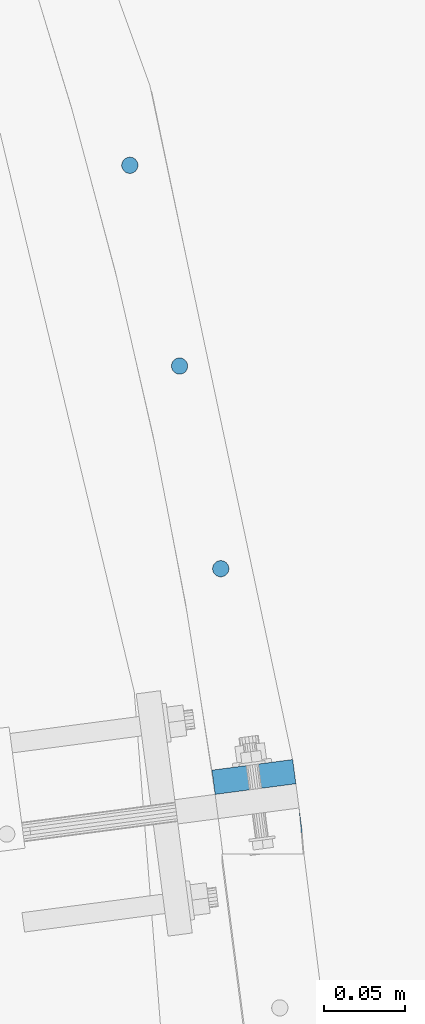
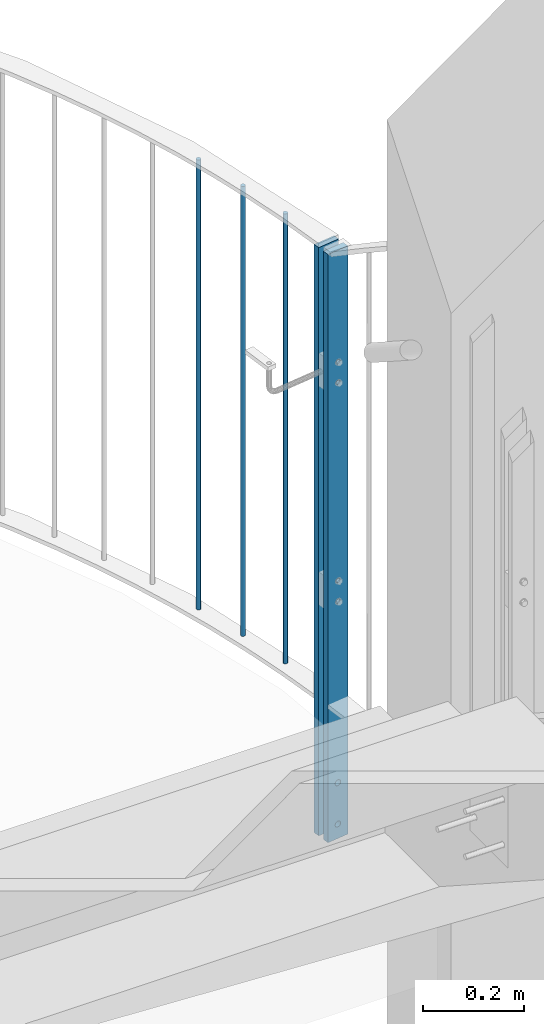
# One storey, part 88 of 296: 5 columns, 12 openings.
"""IFC2X3 building model written with IfcOpenShell, lengths in millimetres."""

from ifc_helpers import new_model, entity, si_unit, converted_unit, frame, frame_2d, origin, origin_with_axes, origin_2d, place, context, project, spatial, rectangle, circle, extrude, material, element, save


model = new_model("IFC2X3")

# Units and contexts
model_context = context("Model", 3, precision=1e-09, world=origin_with_axes())
ifc_project = project(units=[si_unit("LENGTHUNIT", "METRE", prefix="MILLI"), si_unit("AREAUNIT", "SQUARE_METRE"), si_unit("VOLUMEUNIT", "CUBIC_METRE"), converted_unit("PLANEANGLEUNIT", "DEGREE", entity("IfcPlaneAngleMeasure", 0.01745329), si_unit("PLANEANGLEUNIT", "RADIAN"), dimensions=[0, 0, 0, 0, 0, 0, 0])], contexts=[model_context])

# Site, building, storey
site_placement = place(None, origin_with_axes())
site = spatial("IfcSite", under=ifc_project, at=site_placement, Name="TZD-S?d | Treppenhausgel?nder", CompositionType="ELEMENT")
building_placement = place(site_placement, origin_with_axes())
building = spatial("IfcBuilding", under=site, at=building_placement, Name="Struktur 1", CompositionType="ELEMENT")
storey_placement = place(building_placement, origin_with_axes())
storey = spatial("IfcBuildingStorey", under=building, at=storey_placement, Name="Default Storey", CompositionType="ELEMENT", Elevation=0.0)

# Columns
ifc_material = material(Name="S235JR")
for number, where, z_axis, x_axis in (
    (1, (5867.115279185, 432.965487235, 11725.0), (0.0, 0.0, -1.0), (0.0, 1.0, 0.0)),
    (2, (5841.837700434, 557.381027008, 11725.0), (0.0, 0.0, -1.0), (0.0, 1.0, 0.0)),
    (3, (5811.30133172, 680.611350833, 11725.0), (0.0, 0.0, -1.0), (0.0, 1.0, 0.0)),
):
    element("IfcColumn", number, at=place(None, frame(where, z_axis=z_axis, x_axis=x_axis)), inside=storey, material=ifc_material, Name="-", ObjectType="-", context=model_context, shape_type="SweptSolid", body=[
        extrude(circle(Radius=5.0, at=origin_2d()), origin(), (0.0, 0.0, -1.0), 1090.0),
    ])

# Column, openings
column_1_placement = place(None, frame((5887.462242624, 305.144987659, 11390.001), z_axis=(0.0, 0.0, 1.0), x_axis=(0.130526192, -0.991444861, 0.0)))
column_1 = element("IfcColumn", 4, at=column_1_placement, inside=storey, material=ifc_material, Name="-", ObjectType="-", context=model_context, shape_type="SweptSolid", body=[
    extrude(rectangle(XDim=15.0, YDim=50.0, at=origin_2d()), origin(), (0.0, 0.0, 1.0), 1424.999),
])
opening_1_placement = place(column_1_placement, frame((-8.0, 5.001, 1154.999999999), z_axis=(-1.0, 0.0, 0.0), x_axis=(0.0, -1.0, 0.0)))
element("IfcOpeningElement", 5, at=opening_1_placement, cuts=column_1, ObjectType="Opening", context=model_context, shape_type="SweptSolid", body=[
    extrude(circle(Radius=5.001, at=frame_2d((5.001, 0.0), x_axis=(1.0, 0.0))), origin(), (0.0, 0.0, -1.0), 16.0),
])
opening_2_placement = place(column_1_placement, frame((-8.0, 5.001, 1104.999999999), z_axis=(-1.0, 0.0, 0.0), x_axis=(0.0, -1.0, 0.0)))
element("IfcOpeningElement", 6, at=opening_2_placement, cuts=column_1, ObjectType="Opening", context=model_context, shape_type="SweptSolid", body=[
    extrude(circle(Radius=5.001, at=frame_2d((5.001, 0.0), x_axis=(1.0, 0.0))), origin(), (0.0, 0.0, -1.0), 16.0),
])
opening_3_placement = place(column_1_placement, frame((-8.0, 7.001, 135.0), z_axis=(-1.0, 0.0, 0.0), x_axis=(0.0, -1.0, 0.0)))
element("IfcOpeningElement", 7, at=opening_3_placement, cuts=column_1, ObjectType="Opening", context=model_context, shape_type="SweptSolid", body=[
    extrude(circle(Radius=7.001, at=frame_2d((7.001, 0.0), x_axis=(1.0, 0.0))), origin(), (0.0, 0.0, -1.0), 16.0),
])
opening_4_placement = place(column_1_placement, frame((-8.0, 7.001, 35.0), z_axis=(-1.0, 0.0, 0.0), x_axis=(0.0, -1.0, 0.0)))
element("IfcOpeningElement", 8, at=opening_4_placement, cuts=column_1, ObjectType="Opening", context=model_context, shape_type="SweptSolid", body=[
    extrude(circle(Radius=7.001, at=frame_2d((7.001, 0.0), x_axis=(1.0, 0.0))), origin(), (0.0, 0.0, -1.0), 16.0),
])
opening_5_placement = place(column_1_placement, frame((-8.0, 5.001, 624.999999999), z_axis=(-1.0, 0.0, 0.0), x_axis=(0.0, -1.0, 0.0)))
element("IfcOpeningElement", 9, at=opening_5_placement, cuts=column_1, ObjectType="Opening", context=model_context, shape_type="SweptSolid", body=[
    extrude(circle(Radius=5.001, at=frame_2d((5.001, 0.0), x_axis=(1.0, 0.0))), origin(), (0.0, 0.0, -1.0), 16.0),
])
opening_6_placement = place(column_1_placement, frame((-8.0, 5.001, 574.999999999), z_axis=(-1.0, 0.0, 0.0), x_axis=(0.0, -1.0, 0.0)))
element("IfcOpeningElement", 10, at=opening_6_placement, cuts=column_1, ObjectType="Opening", context=model_context, shape_type="SweptSolid", body=[
    extrude(circle(Radius=5.001, at=frame_2d((5.001, 0.0), x_axis=(1.0, 0.0))), origin(), (0.0, 0.0, -1.0), 16.0),
])

column_2_placement = place(None, frame((5891.378028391, 275.401641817, 11390.001), z_axis=(0.0, 0.0, -1.0), x_axis=(-0.130526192, 0.991444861, 0.0)))
column_2 = element("IfcColumn", 11, at=column_2_placement, inside=storey, material=ifc_material, Name="-", ObjectType="-", context=model_context, shape_type="SweptSolid", body=[
    extrude(rectangle(XDim=15.0, YDim=50.0, at=origin_2d()), origin(), (0.0, 0.0, -1.0), 1424.999),
])
opening_7_placement = place(column_2_placement, frame((8.0, 7.001, -135.0), z_axis=(1.0, 0.0, 0.0), x_axis=(0.0, 1.0, 0.0)))
element("IfcOpeningElement", 12, at=opening_7_placement, cuts=column_2, ObjectType="Opening", context=model_context, shape_type="SweptSolid", body=[
    extrude(circle(Radius=7.001, at=frame_2d((-7.001, 0.0), x_axis=(1.0, 0.0))), origin(), (0.0, 0.0, -1.0), 16.0),
])
opening_8_placement = place(column_2_placement, frame((8.0, 7.001, -35.0), z_axis=(1.0, 0.0, 0.0), x_axis=(0.0, 1.0, 0.0)))
element("IfcOpeningElement", 13, at=opening_8_placement, cuts=column_2, ObjectType="Opening", context=model_context, shape_type="SweptSolid", body=[
    extrude(circle(Radius=7.001, at=frame_2d((-7.001, 0.0), x_axis=(1.0, 0.0))), origin(), (0.0, 0.0, -1.0), 16.0),
])
opening_9_placement = place(column_2_placement, frame((8.0, 5.001, -1154.999999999), z_axis=(1.0, 0.0, 0.0), x_axis=(0.0, 1.0, 0.0)))
element("IfcOpeningElement", 14, at=opening_9_placement, cuts=column_2, ObjectType="Opening", context=model_context, shape_type="SweptSolid", body=[
    extrude(circle(Radius=5.001, at=frame_2d((-5.001, 0.0), x_axis=(1.0, 0.0))), origin(), (0.0, 0.0, -1.0), 16.0),
])
opening_10_placement = place(column_2_placement, frame((8.0, 5.001, -1104.999999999), z_axis=(1.0, 0.0, 0.0), x_axis=(0.0, 1.0, 0.0)))
element("IfcOpeningElement", 15, at=opening_10_placement, cuts=column_2, ObjectType="Opening", context=model_context, shape_type="SweptSolid", body=[
    extrude(circle(Radius=5.001, at=frame_2d((-5.001, 0.0), x_axis=(1.0, 0.0))), origin(), (0.0, 0.0, -1.0), 16.0),
])
opening_11_placement = place(column_2_placement, frame((8.0, 5.001, -624.999999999), z_axis=(1.0, 0.0, 0.0), x_axis=(0.0, 1.0, 0.0)))
element("IfcOpeningElement", 16, at=opening_11_placement, cuts=column_2, ObjectType="Opening", context=model_context, shape_type="SweptSolid", body=[
    extrude(circle(Radius=5.001, at=frame_2d((-5.001, 0.0), x_axis=(1.0, 0.0))), origin(), (0.0, 0.0, -1.0), 16.0),
])
opening_12_placement = place(column_2_placement, frame((8.0, 5.001, -574.999999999), z_axis=(1.0, 0.0, 0.0), x_axis=(0.0, 1.0, 0.0)))
element("IfcOpeningElement", 17, at=opening_12_placement, cuts=column_2, ObjectType="Opening", context=model_context, shape_type="SweptSolid", body=[
    extrude(circle(Radius=5.001, at=frame_2d((-5.001, 0.0), x_axis=(1.0, 0.0))), origin(), (0.0, 0.0, -1.0), 16.0),
])

save(model, "model.ifc")
